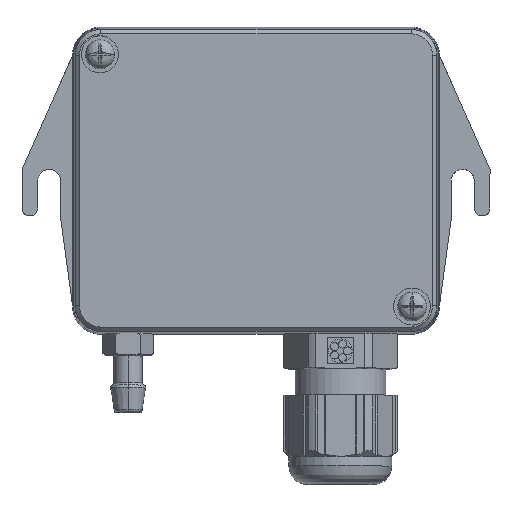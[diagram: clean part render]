
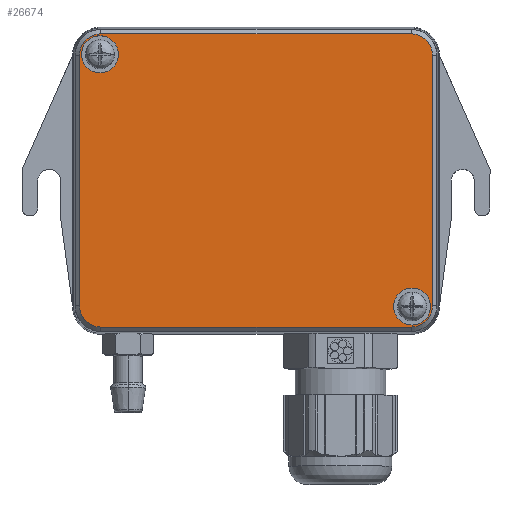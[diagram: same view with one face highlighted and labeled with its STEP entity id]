
A CAD part, top view. The second image highlights one B-rep face of the part: STEP entity #26674.
In plain terms, the highlighted planar face has unit normal (0, 0, 1).
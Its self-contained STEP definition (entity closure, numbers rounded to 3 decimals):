
#395 = VERTEX_POINT ( 'NONE', #23175 ) ;
#1294 = DIRECTION ( 'NONE',  ( 0., 0., -1. ) ) ;
#1452 = AXIS2_PLACEMENT_3D ( 'NONE', #11452, #15455, #17825 ) ;
#1536 = ORIENTED_EDGE ( 'NONE', *, *, #12909, .T. ) ;
#1650 = CARTESIAN_POINT ( 'NONE',  ( -0.167, 0.14, 7.571 ) ) ;
#1928 = CARTESIAN_POINT ( 'NONE',  ( 28.507, -23.034, 7.571 ) ) ;
#2027 = ORIENTED_EDGE ( 'NONE', *, *, #4296, .T. ) ;
#2307 = EDGE_CURVE ( 'NONE', #12633, #14202, #18321, .T. ) ;
#2517 = EDGE_CURVE ( 'NONE', #18215, #19176, #7099, .T. ) ;
#3504 = CARTESIAN_POINT ( 'NONE',  ( -28.666, -26.798, 7.571 ) ) ;
#3703 = AXIS2_PLACEMENT_3D ( 'NONE', #1928, #5392, #11767 ) ;
#3707 = DIRECTION ( 'NONE',  ( 0., 0., 1. ) ) ;
#4296 = EDGE_CURVE ( 'NONE', #13659, #17126, #16209, .T. ) ;
#4354 = VECTOR ( 'NONE', #13872, 1000. ) ;
#4530 = ORIENTED_EDGE ( 'NONE', *, *, #2517, .T. ) ;
#4954 = CARTESIAN_POINT ( 'NONE',  ( 31.907, -23.034, 7.571 ) ) ;
#5141 = LINE ( 'NONE', #26477, #4354 ) ;
#5392 = DIRECTION ( 'NONE',  ( 0., 0., -1. ) ) ;
#5546 = EDGE_LOOP ( 'NONE', ( #18250, #2027 ) ) ;
#5686 = AXIS2_PLACEMENT_3D ( 'NONE', #15778, #1294, #18158 ) ;
#5951 = DIRECTION ( 'NONE',  ( -1., 0., 0. ) ) ;
#6104 = VERTEX_POINT ( 'NONE', #14716 ) ;
#6602 = EDGE_CURVE ( 'NONE', #22904, #395, #22274, .T. ) ;
#7099 = LINE ( 'NONE', #13175, #8837 ) ;
#7480 = CIRCLE ( 'NONE', #10172, 3.938 ) ;
#7704 = CARTESIAN_POINT ( 'NONE',  ( 28.332, -22.859, 7.571 ) ) ;
#7819 = CARTESIAN_POINT ( 'NONE',  ( 28.332, 23.139, 7.571 ) ) ;
#7855 = ORIENTED_EDGE ( 'NONE', *, *, #20610, .T. ) ;
#7903 = CARTESIAN_POINT ( 'NONE',  ( -32.604, 0.14, 7.571 ) ) ;
#8837 = VECTOR ( 'NONE', #15526, 1000. ) ;
#9212 = VERTEX_POINT ( 'NONE', #25454 ) ;
#9361 = CIRCLE ( 'NONE', #24842, 3.938 ) ;
#9380 = CIRCLE ( 'NONE', #1452, 3.4 ) ;
#9809 = LINE ( 'NONE', #16278, #10674 ) ;
#9960 = DIRECTION ( 'NONE',  ( -1., 0., 0. ) ) ;
#9968 = CARTESIAN_POINT ( 'NONE',  ( 28.332, 27.078, 7.571 ) ) ;
#10083 = DIRECTION ( 'NONE',  ( 0., 0., -1. ) ) ;
#10096 = VERTEX_POINT ( 'NONE', #25733 ) ;
#10172 = AXIS2_PLACEMENT_3D ( 'NONE', #7704, #3707, #22525 ) ;
#10191 = CIRCLE ( 'NONE', #25648, 3.938 ) ;
#10206 = FACE_BOUND ( 'NONE', #21095, .T. ) ;
#10208 = DIRECTION ( 'NONE',  ( 0., 0., 1. ) ) ;
#10309 = CARTESIAN_POINT ( 'NONE',  ( 32.27, 23.139, 7.571 ) ) ;
#10674 = VECTOR ( 'NONE', #24603, 1000. ) ;
#11452 = CARTESIAN_POINT ( 'NONE',  ( 28.507, -23.034, 7.571 ) ) ;
#11736 = ORIENTED_EDGE ( 'NONE', *, *, #2307, .T. ) ;
#11767 = DIRECTION ( 'NONE',  ( -1., 0., 0. ) ) ;
#11970 = VERTEX_POINT ( 'NONE', #19000 ) ;
#12059 = CARTESIAN_POINT ( 'NONE',  ( -28.666, -22.859, 7.571 ) ) ;
#12324 = LINE ( 'NONE', #7903, #14163 ) ;
#12633 = VERTEX_POINT ( 'NONE', #10309 ) ;
#12876 = AXIS2_PLACEMENT_3D ( 'NONE', #1650, #13924, #20450 ) ;
#12909 = EDGE_CURVE ( 'NONE', #10096, #9212, #12324, .T. ) ;
#13175 = CARTESIAN_POINT ( 'NONE',  ( -0.167, -26.798, 7.571 ) ) ;
#13659 = VERTEX_POINT ( 'NONE', #16952 ) ;
#13737 = EDGE_CURVE ( 'NONE', #17126, #13659, #23387, .T. ) ;
#13872 = DIRECTION ( 'NONE',  ( -1., 0., 0. ) ) ;
#13924 = DIRECTION ( 'NONE',  ( 0., 0., 1. ) ) ;
#14163 = VECTOR ( 'NONE', #18423, 1000. ) ;
#14202 = VERTEX_POINT ( 'NONE', #9968 ) ;
#14209 = CARTESIAN_POINT ( 'NONE',  ( -28.666, 23.139, 7.571 ) ) ;
#14716 = CARTESIAN_POINT ( 'NONE',  ( -28.666, 27.078, 7.571 ) ) ;
#15455 = DIRECTION ( 'NONE',  ( 0., 0., -1. ) ) ;
#15526 = DIRECTION ( 'NONE',  ( 1., 0., 0. ) ) ;
#15778 = CARTESIAN_POINT ( 'NONE',  ( -28.841, 23.314, 7.571 ) ) ;
#16041 = EDGE_CURVE ( 'NONE', #19176, #11970, #7480, .T. ) ;
#16144 = FACE_OUTER_BOUND ( 'NONE', #21787, .T. ) ;
#16209 = CIRCLE ( 'NONE', #26830, 3.4 ) ;
#16278 = CARTESIAN_POINT ( 'NONE',  ( 32.27, 0.14, 7.571 ) ) ;
#16952 = CARTESIAN_POINT ( 'NONE',  ( -25.441, 23.314, 7.571 ) ) ;
#17126 = VERTEX_POINT ( 'NONE', #23756 ) ;
#17674 = ORIENTED_EDGE ( 'NONE', *, *, #6602, .T. ) ;
#17825 = DIRECTION ( 'NONE',  ( -1., 0., 0. ) ) ;
#18017 = ORIENTED_EDGE ( 'NONE', *, *, #22077, .T. ) ;
#18158 = DIRECTION ( 'NONE',  ( -1., 0., 0. ) ) ;
#18215 = VERTEX_POINT ( 'NONE', #3504 ) ;
#18250 = ORIENTED_EDGE ( 'NONE', *, *, #13737, .T. ) ;
#18266 = ORIENTED_EDGE ( 'NONE', *, *, #22068, .T. ) ;
#18316 = ORIENTED_EDGE ( 'NONE', *, *, #16041, .T. ) ;
#18321 = CIRCLE ( 'NONE', #22555, 3.938 ) ;
#18423 = DIRECTION ( 'NONE',  ( 0., -1., 0. ) ) ;
#18641 = PLANE ( 'NONE',  #12876 ) ;
#18643 = DIRECTION ( 'NONE',  ( -1., 0., 0. ) ) ;
#19000 = CARTESIAN_POINT ( 'NONE',  ( 32.27, -22.859, 7.571 ) ) ;
#19152 = EDGE_CURVE ( 'NONE', #14202, #6104, #5141, .T. ) ;
#19176 = VERTEX_POINT ( 'NONE', #22058 ) ;
#20186 = CARTESIAN_POINT ( 'NONE',  ( -28.841, 23.314, 7.571 ) ) ;
#20450 = DIRECTION ( 'NONE',  ( 1., 0., 0. ) ) ;
#20610 = EDGE_CURVE ( 'NONE', #9212, #18215, #10191, .T. ) ;
#21095 = EDGE_LOOP ( 'NONE', ( #25423, #17674 ) ) ;
#21787 = EDGE_LOOP ( 'NONE', ( #18017, #11736, #26857, #18266, #1536, #7855, #4530, #18316 ) ) ;
#22058 = CARTESIAN_POINT ( 'NONE',  ( 28.332, -26.798, 7.571 ) ) ;
#22068 = EDGE_CURVE ( 'NONE', #6104, #10096, #9361, .T. ) ;
#22077 = EDGE_CURVE ( 'NONE', #11970, #12633, #9809, .T. ) ;
#22274 = CIRCLE ( 'NONE', #3703, 3.4 ) ;
#22525 = DIRECTION ( 'NONE',  ( -1., 0., 0. ) ) ;
#22555 = AXIS2_PLACEMENT_3D ( 'NONE', #7819, #22786, #22903 ) ;
#22786 = DIRECTION ( 'NONE',  ( 0., 0., 1. ) ) ;
#22814 = EDGE_CURVE ( 'NONE', #395, #22904, #9380, .T. ) ;
#22903 = DIRECTION ( 'NONE',  ( -1., 0., 0. ) ) ;
#22904 = VERTEX_POINT ( 'NONE', #4954 ) ;
#23175 = CARTESIAN_POINT ( 'NONE',  ( 25.107, -23.034, 7.571 ) ) ;
#23387 = CIRCLE ( 'NONE', #5686, 3.4 ) ;
#23756 = CARTESIAN_POINT ( 'NONE',  ( -32.241, 23.314, 7.571 ) ) ;
#24603 = DIRECTION ( 'NONE',  ( 0., 1., 0. ) ) ;
#24842 = AXIS2_PLACEMENT_3D ( 'NONE', #14209, #10208, #18643 ) ;
#24937 = DIRECTION ( 'NONE',  ( 0., 0., 1. ) ) ;
#25423 = ORIENTED_EDGE ( 'NONE', *, *, #22814, .T. ) ;
#25454 = CARTESIAN_POINT ( 'NONE',  ( -32.604, -22.859, 7.571 ) ) ;
#25648 = AXIS2_PLACEMENT_3D ( 'NONE', #12059, #24937, #5951 ) ;
#25733 = CARTESIAN_POINT ( 'NONE',  ( -32.604, 23.139, 7.571 ) ) ;
#26477 = CARTESIAN_POINT ( 'NONE',  ( -0.167, 27.078, 7.571 ) ) ;
#26539 = FACE_BOUND ( 'NONE', #5546, .T. ) ;
#26674 = ADVANCED_FACE ( 'NONE', ( #26539, #10206, #16144 ), #18641, .T. ) ;
#26830 = AXIS2_PLACEMENT_3D ( 'NONE', #20186, #10083, #9960 ) ;
#26857 = ORIENTED_EDGE ( 'NONE', *, *, #19152, .T. ) ;
